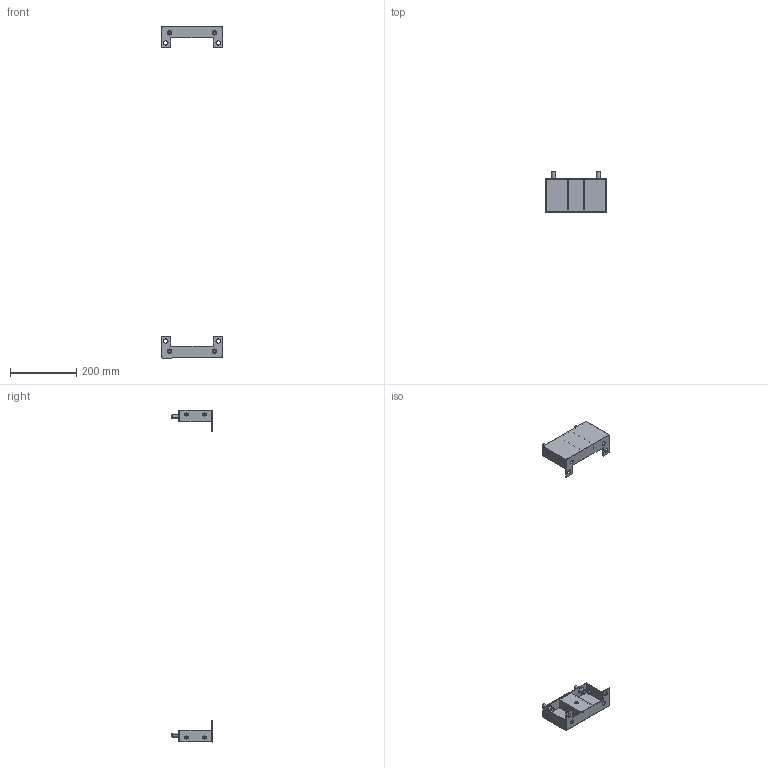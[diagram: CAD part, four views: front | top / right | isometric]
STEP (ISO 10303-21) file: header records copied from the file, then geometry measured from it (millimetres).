
FILE_DESCRIPTION (( 'STEP AP203' ), '1' );
FILE_NAME ('R6PLB25 H=1000.STEP', '2025-05-16T11:41:29', ( '' ), ( '' ), 'SwSTEP 2.0', 'SolidWorks 2022', '' );
FILE_SCHEMA (( 'CONFIG_CONTROL_DESIGN' ));
Length unit declared in the file: millimetre
Products named in the file (7): RB.3309.00.01.0 simple; R6PLB25 H=1000; RB.3309.00.02.0 simple; M6 MGS-MPO-0635_straight; 12 DIN 6798 A Zinc; RB.3309.00.00.0 СБ simple; M12x25 DIN 912 HX cl.8,8 Zinc_stright
Assembly tree (17 placements, depth 3):
  R6PLB25 H=1000
    RB.3309.00.00.0 СБ simple  x2
      RB.3309.00.01.0 simple
      M6 MGS-MPO-0635_straight
      RB.3309.00.02.0 simple
    12 DIN 6798 A Zinc  x4
    M12x25 DIN 912 HX cl.8,8 Zinc_stright  x4
Bounding box: 186.7 x 121.5 x 1000 mm (x, y, z)
Volume: 261997.6 mm3; surface area: 216610.9 mm2
Topology: 22 solids, 22 shells, 1220 faces, 3192 edges, 1808 vertices
Faces by surface type: plane 548, cylinder 356, bspline 144, sphere 120, cone 36, torus 16
Entity records: 10115 total; most frequent: CARTESIAN_POINT 2745, ORIENTED_EDGE 1384, DIRECTION 1192, EDGE_CURVE 692, VECTOR 444, LINE 444, VERTEX_POINT 443, AXIS2_PLACEMENT_3D 374
